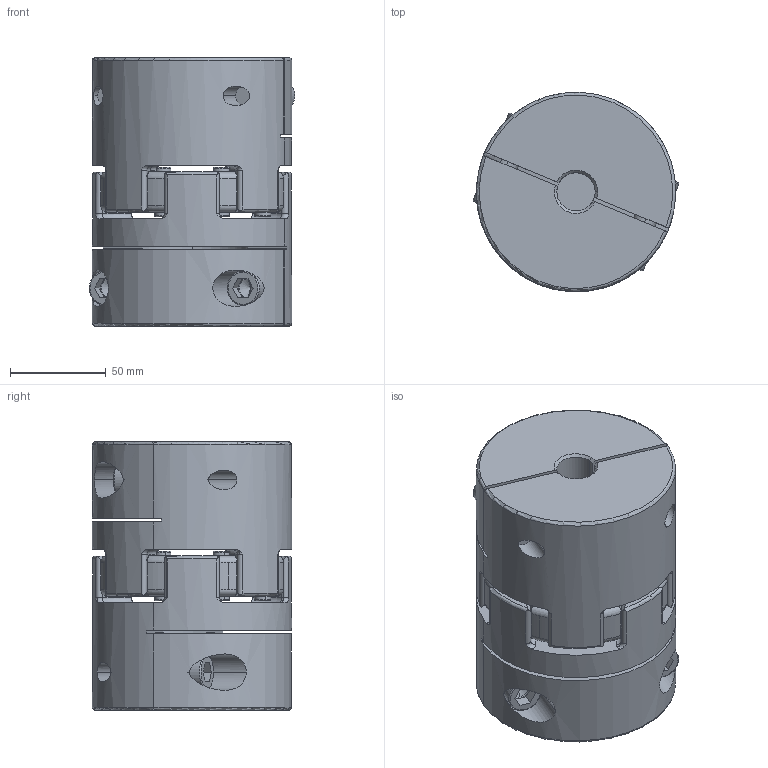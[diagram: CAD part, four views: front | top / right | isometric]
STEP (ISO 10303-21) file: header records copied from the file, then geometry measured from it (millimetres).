
FILE_DESCRIPTION (( 'STEP AP203' ), '1' );
FILE_NAME ('SJC-100C-20X60_203.STEP', '2013-02-24T02:48:48', ( 'MYCOM' ), ( '' ), 'SwSTEP 2.0', 'SolidWorks 2012', '' );
FILE_SCHEMA (( 'CONFIG_CONTROL_DESIGN' ));
Length unit declared in the file: millimetre
Products named in the file (1): SJC-100C-20X60_203
Bounding box: 107.26 x 104 x 140.2 mm (x, y, z)
Volume: 868957.6 mm3; surface area: 144460.3 mm2
Topology: 1 solids, 1 shells, 526 faces, 1441 edges, 893 vertices
Faces by surface type: cylinder 188, torus 122, plane 112, cone 104
Entity records: 19031 total; most frequent: CARTESIAN_POINT 5621, DIRECTION 2914, ORIENTED_EDGE 2834, EDGE_CURVE 1417, AXIS2_PLACEMENT_3D 1244, VERTEX_POINT 893, CIRCLE 717, EDGE_LOOP 566
